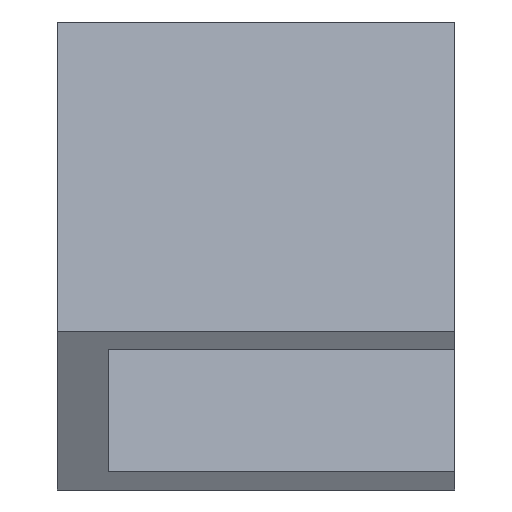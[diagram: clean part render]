
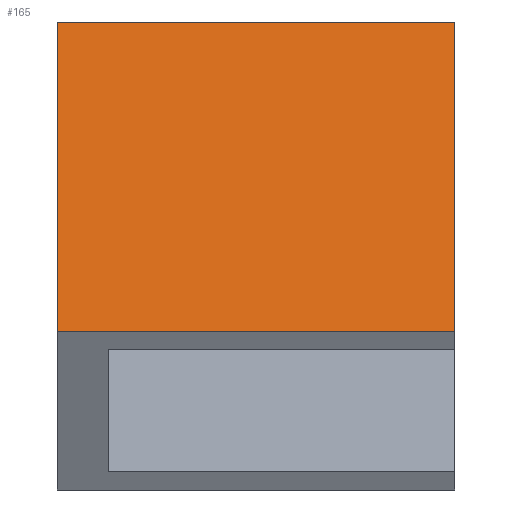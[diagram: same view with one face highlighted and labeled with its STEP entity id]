
A CAD part, top view. The second image highlights one B-rep face of the part: STEP entity #165.
In plain terms, the highlighted planar face has unit normal (0, 0.174, 0.985).
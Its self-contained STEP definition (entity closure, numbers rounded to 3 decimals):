
#126=CARTESIAN_POINT('',(-0.5,-229.212,454.501));
#127=DIRECTION('',(0.0,0.174,0.985));
#128=DIRECTION('',(-1.0,0.0,0.0));
#129=AXIS2_PLACEMENT_3D('',#126,#127,#128);
#130=PLANE('',#129);
#131=CARTESIAN_POINT('',(-0.5,-229.212,454.501));
#132=VERTEX_POINT('',#131);
#133=CARTESIAN_POINT('',(-76.5,-229.212,454.501));
#134=VERTEX_POINT('',#133);
#135=CARTESIAN_POINT('',(-0.5,-229.212,454.501));
#136=DIRECTION('',(-1.0,0.,0.));
#137=VECTOR('',#136,1.);
#138=LINE('',#135,#137);
#139=EDGE_CURVE('',#132,#134,#138,.T.);
#140=ORIENTED_EDGE('',*,*,#139,.T.);
#141=CARTESIAN_POINT('',(-76.5,-288.3,464.92));
#142=VERTEX_POINT('',#141);
#143=CARTESIAN_POINT('',(-76.5,-229.212,454.501));
#144=DIRECTION('',(0.0,-0.985,0.174));
#145=VECTOR('',#144,1.);
#146=LINE('',#143,#145);
#147=EDGE_CURVE('',#134,#142,#146,.T.);
#148=ORIENTED_EDGE('',*,*,#147,.T.);
#149=CARTESIAN_POINT('',(-0.5,-288.3,464.92));
#150=VERTEX_POINT('',#149);
#151=CARTESIAN_POINT('',(-0.5,-288.3,464.92));
#152=DIRECTION('',(-1.0,0.,0.));
#153=VECTOR('',#152,1.);
#154=LINE('',#151,#153);
#155=EDGE_CURVE('',#150,#142,#154,.T.);
#156=ORIENTED_EDGE('',*,*,#155,.F.);
#157=CARTESIAN_POINT('',(-0.5,-229.212,454.501));
#158=DIRECTION('',(0.0,-0.985,0.174));
#159=VECTOR('',#158,1.);
#160=LINE('',#157,#159);
#161=EDGE_CURVE('',#132,#150,#160,.T.);
#162=ORIENTED_EDGE('',*,*,#161,.F.);
#163=EDGE_LOOP('',(#140,#148,#156,#162));
#164=FACE_BOUND('',#163,.T.);
#165=ADVANCED_FACE('',(#164),#130,.T.);
